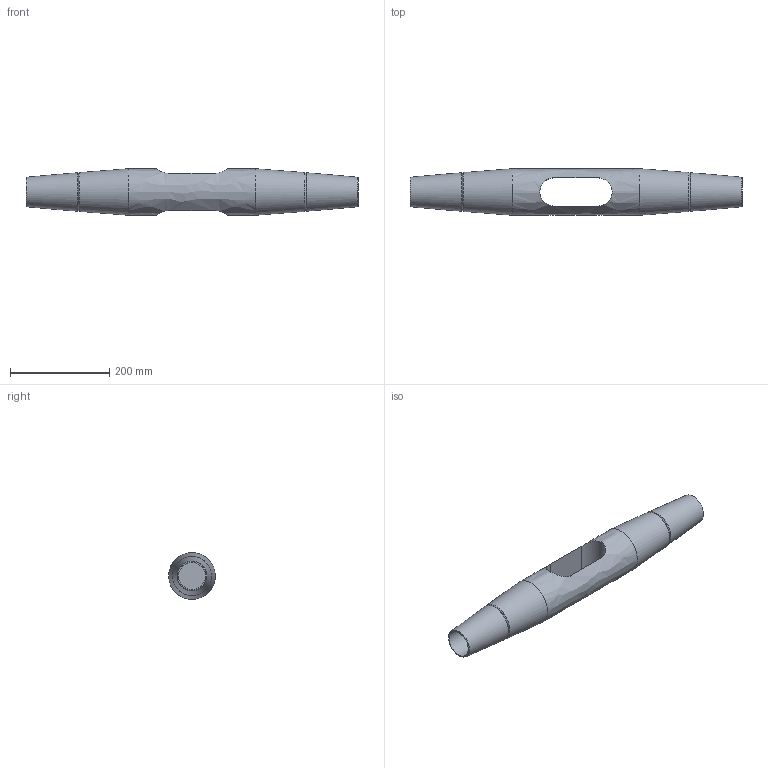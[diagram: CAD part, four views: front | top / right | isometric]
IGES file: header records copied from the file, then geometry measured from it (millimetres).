
Global section: file name: 520-052-KMF; native system: Autodesk Inventor 2016; preprocessor: unknown; author: Administrator; date: 20200702.132435; units: centimetre
Bounding box: 670 x 94 x 93.95 mm (x, y, z)
Volume: 2707883.5 mm3; surface area: 221905.7 mm2
Topology: 1 solids, 1 shells, 21 faces, 53 edges, 36 vertices
Faces by surface type: bspline 21
